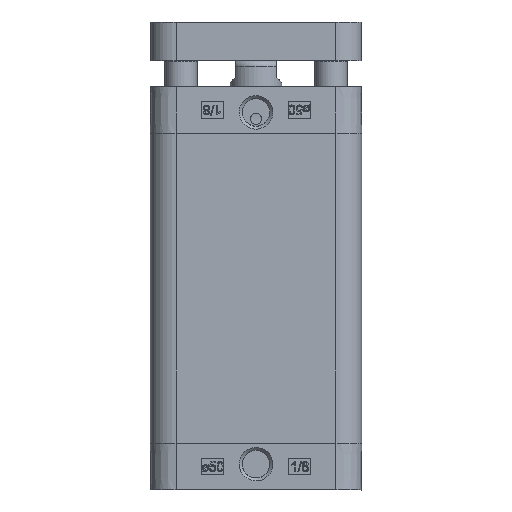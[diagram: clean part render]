
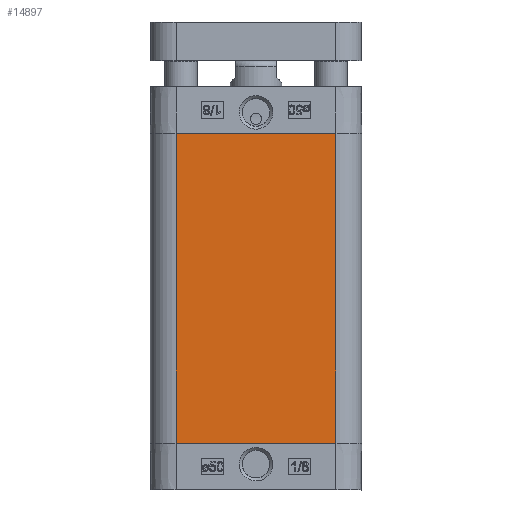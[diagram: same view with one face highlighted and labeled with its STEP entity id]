
A CAD part, left-side view. The second image highlights one B-rep face of the part: STEP entity #14897.
In plain terms, the highlighted planar face has unit normal (-1, 0, 0).
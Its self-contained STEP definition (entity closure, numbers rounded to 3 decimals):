
#532=LINE('',#27095,#1800);
#533=LINE('',#27097,#1801);
#534=LINE('',#27099,#1802);
#535=LINE('',#27101,#1803);
#1800=VECTOR('',#22908,1000.);
#1801=VECTOR('',#22911,1000.);
#1802=VECTOR('',#22912,1000.);
#1803=VECTOR('',#22913,1000.);
#3472=ORIENTED_EDGE('',*,*,#7864,.T.);
#3473=ORIENTED_EDGE('',*,*,#7863,.F.);
#3474=ORIENTED_EDGE('',*,*,#7865,.T.);
#3475=ORIENTED_EDGE('',*,*,#7866,.T.);
#7863=EDGE_CURVE('',#10063,#10062,#532,.T.);
#7864=EDGE_CURVE('',#10064,#10062,#533,.T.);
#7865=EDGE_CURVE('',#10063,#10065,#534,.T.);
#7866=EDGE_CURVE('',#10065,#10064,#535,.T.);
#10062=VERTEX_POINT('',#27092);
#10063=VERTEX_POINT('',#27094);
#10064=VERTEX_POINT('',#27098);
#10065=VERTEX_POINT('',#27100);
#12179=EDGE_LOOP('',(#3472,#3473,#3474,#3475));
#13332=FACE_BOUND('',#12179,.T.);
#14473=PLANE('',#21406);
#14897=ADVANCED_FACE('',(#13332),#14473,.T.);
#21406=AXIS2_PLACEMENT_3D('',#27096,#22909,#22910);
#22908=DIRECTION('',(0.,0.,1.));
#22909=DIRECTION('',(-1.,0.,0.));
#22910=DIRECTION('',(0.,0.,1.));
#22911=DIRECTION('',(0.,1.,0.));
#22912=DIRECTION('',(0.,-1.,0.));
#22913=DIRECTION('',(0.,0.,1.));
#27092=CARTESIAN_POINT('',(-32.75,24.75,96.));
#27094=CARTESIAN_POINT('',(-32.75,24.75,0.));
#27095=CARTESIAN_POINT('',(-32.75,24.75,0.));
#27096=CARTESIAN_POINT('',(-32.75,-24.75,0.));
#27097=CARTESIAN_POINT('',(-32.75,-24.75,96.));
#27098=CARTESIAN_POINT('',(-32.75,-24.75,96.));
#27099=CARTESIAN_POINT('',(-32.75,24.75,0.));
#27100=CARTESIAN_POINT('',(-32.75,-24.75,0.));
#27101=CARTESIAN_POINT('',(-32.75,-24.75,0.));
